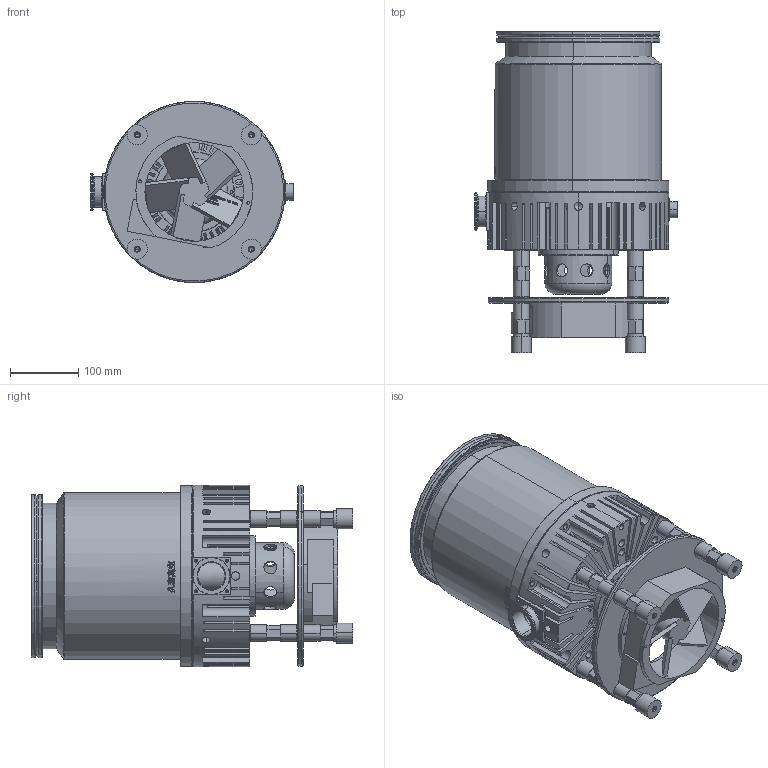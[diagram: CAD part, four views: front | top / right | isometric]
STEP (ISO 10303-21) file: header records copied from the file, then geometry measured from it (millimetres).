
FILE_DESCRIPTION (( 'STEP AP203' ), '1' );
FILE_NAME ('ISO-1200JF-00£×.STEP', '2025-03-29T06:21:00', ( 'User' ), ( 'China' ), 'SwSTEP 2.0', 'SolidWorks 2016', '' );
FILE_SCHEMA (( 'CONFIG_CONTROL_DESIGN' ));
Length unit declared in the file: millimetre
Products named in the file (13): SJJTB-1200J-14-01-01W; 600蝶杶_1; SJJTB-1200J-14-01-00W; ISO-1200JF-00｣ﾗ; SJJTB-1200J-14-00W; SJJTB-07-01A_1; SJJTB-07-00H_1; SJJTB-600F-15_1; SJJTB-600-02_1; SJJTB-1200F-16｣ﾗ_1; 萇埭諉芛_1; SJJTB-1200F-17_1; 瑞圮_1
Assembly tree (22 placements, depth 4):
  ISO-1200JF-00｣ﾗ
    SJJTB-600F-15_1  x8
    SJJTB-1200F-16｣ﾗ_1
    SJJTB-1200F-17_1
    SJJTB-1200J-14-00W
      SJJTB-1200J-14-01-00W
        SJJTB-1200J-14-01-01W
    SJJTB-07-00H_1
      SJJTB-07-01A_1
    SJJTB-600-02_1
    萇埭諉芛_1
    瑞圮_1
    600蝶杶_1  x4
Bounding box: 297.51 x 472 x 266 mm (x, y, z)
Volume: 15943277.9 mm3; surface area: 1147026.4 mm2
Topology: 19 solids, 72 shells, 4110 faces, 11346 edges, 7452 vertices
Faces by surface type: plane 2317, bspline 1071, cylinder 466, cone 224, torus 32
Entity records: 189548 total; most frequent: CARTESIAN_POINT 95918, ORIENTED_EDGE 21544, DIRECTION 14716, EDGE_CURVE 10772, VECTOR 7188, LINE 7188, VERTEX_POINT 7136, EDGE_LOOP 4166
